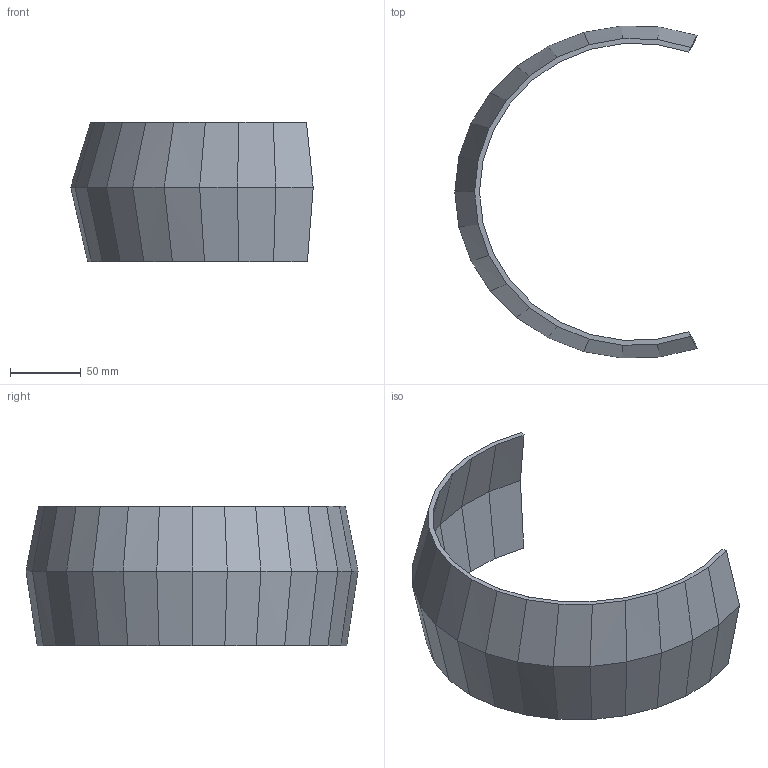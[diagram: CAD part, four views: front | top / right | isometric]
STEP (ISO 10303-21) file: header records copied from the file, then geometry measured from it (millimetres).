
FILE_DESCRIPTION(('Open CASCADE Model'),'2;1');
FILE_NAME('Open CASCADE Shape Model','2026-09-19T23:46:40',('Author'),( 'Open CASCADE'),'Open CASCADE STEP processor 7.9','Open CASCADE 7.9' ,'Unknown');
FILE_SCHEMA(('AUTOMOTIVE_DESIGN { 1 0 10303 214 1 1 1 1 }'));
Length unit declared in the file: millimetre
Products named in the file (1): Open CASCADE STEP translator 7.9 80
Bounding box: 171.78 x 235.29 x 99 mm (x, y, z)
Volume: 153901.1 mm3; surface area: 94071.8 mm2
Topology: 1 solids, 1 shells, 78 faces, 190 edges, 114 vertices
Faces by surface type: bspline 76, plane 2
Entity records: 4522 total; most frequent: CARTESIAN_POINT 1139, DIRECTION 428, LINE 422, VECTOR 422, ORIENTED_EDGE 380, PCURVE 380, DEFINITIONAL_REPRESENTATION 380, EDGE_CURVE 190
